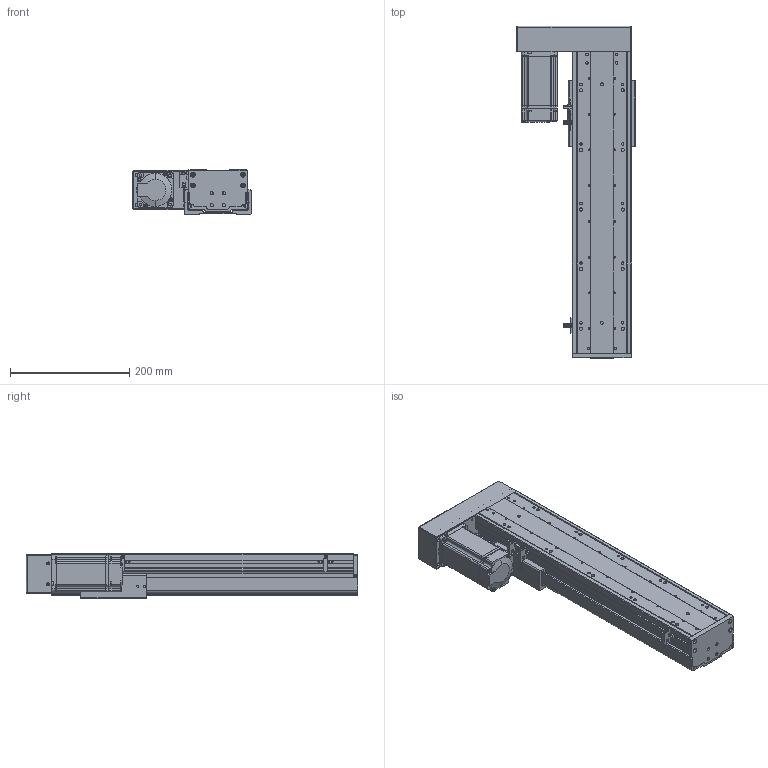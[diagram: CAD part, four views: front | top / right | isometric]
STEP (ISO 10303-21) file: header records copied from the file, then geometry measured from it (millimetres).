
FILE_DESCRIPTION (( 'STEP AP203' ), '1' );
FILE_NAME ('RY100FBS-L1610-300-LK(15双轨）.SLDASM_300.step', '2021-02-23T01:49:00', ( '盈信电脑' ), ( '东莞市道滘镇水果街19号' ), 'SwSTEP 2.0', 'SolidWorks 2012', '' );
FILE_SCHEMA (( 'CONFIG_CONTROL_DESIGN' ));
Length unit declared in the file: millimetre
Products named in the file (14): RY100FBS-L1610-300-LK(15双轨）.SLDASM_300; RY100FBS-酘衵殏萇儂欶; 侂狟400W侜督萇儂; RY100FBS-后盖板(15双轨）; RY100FBS-酘衵殏萇儂啣; RY100FBS-嫖萇覜茼え; 15; 覜茼ん672; RY100FBS-铝滑块（16丝杆）; 滅袉蝶18-15; RY100FBS-300蛌殏奻裔啣-LK; 滅袉蝶18-24; RY100FBS-转折支撑座（15双轨）; RY100FBS-300蛌殏菁釱-LK
Assembly tree (15 placements, depth 3):
  RY100FBS-L1610-300-LK(15双轨）.SLDASM_300
    RY100FBS-300蛌殏菁釱-LK
    RY100FBS-300蛌殏奻裔啣-LK
    RY100FBS-转折支撑座（15双轨）
    滅袉蝶18-24
    滅袉蝶18-15
    RY100FBS-铝滑块（16丝杆）
    覜茼ん672  x3
    RY100FBS-嫖萇覜茼え
    侂狟400W侜督萇儂
      15
    RY100FBS-后盖板(15双轨）
    RY100FBS-酘衵殏萇儂啣
    RY100FBS-酘衵殏萇儂欶
Bounding box: 198.75 x 557 x 74 mm (x, y, z)
Volume: 1853985.3 mm3; surface area: 655044.9 mm2
Topology: 14 solids, 14 shells, 1559 faces, 4376 edges, 2834 vertices
Faces by surface type: cylinder 723, plane 684, cone 126, bspline 26
Entity records: 48595 total; most frequent: CARTESIAN_POINT 10316, DIRECTION 7783, ORIENTED_EDGE 7628, EDGE_CURVE 3814, AXIS2_PLACEMENT_3D 2793, VERTEX_POINT 2514, VECTOR 2197, LINE 2197
